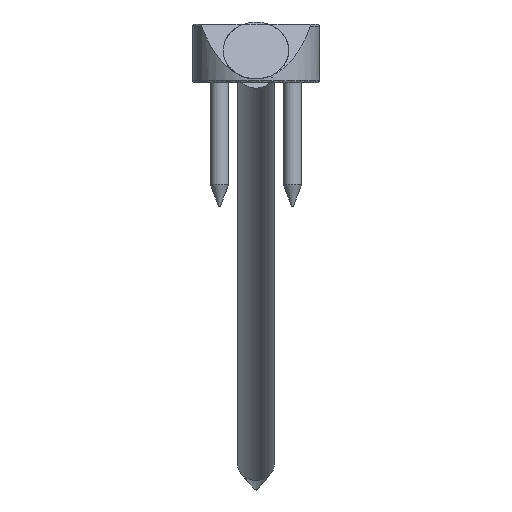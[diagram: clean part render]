
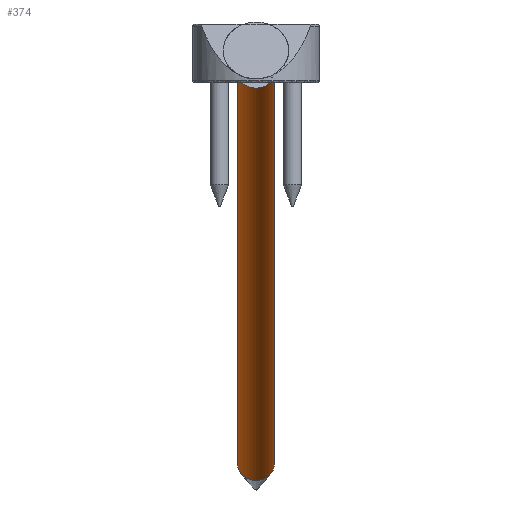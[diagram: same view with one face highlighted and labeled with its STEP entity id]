
A CAD part, front view. The second image highlights one B-rep face of the part: STEP entity #374.
In plain terms, the highlighted cylindrical face has radius 5 mm (diameter 10 mm), a full revolution.
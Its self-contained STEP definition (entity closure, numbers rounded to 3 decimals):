
#59=CYLINDRICAL_SURFACE('',#464,5.);
#132=ORIENTED_EDGE('',*,*,#169,.T.);
#133=ORIENTED_EDGE('',*,*,#168,.F.);
#168=EDGE_CURVE('',#199,#199,#226,.T.);
#169=EDGE_CURVE('',#200,#200,#227,.T.);
#199=VERTEX_POINT('',#700);
#200=VERTEX_POINT('',#703);
#226=CIRCLE('',#463,5.);
#227=CIRCLE('',#465,5.);
#279=EDGE_LOOP('',(#132));
#280=EDGE_LOOP('',(#133));
#334=FACE_BOUND('',#279,.T.);
#335=FACE_BOUND('',#280,.T.);
#374=ADVANCED_FACE('',(#334,#335),#59,.T.);
#463=AXIS2_PLACEMENT_3D('',#699,#584,#585);
#464=AXIS2_PLACEMENT_3D('',#701,#586,#587);
#465=AXIS2_PLACEMENT_3D('',#702,#588,#589);
#584=DIRECTION('',(0.,1.,0.));
#585=DIRECTION('',(0.,0.,1.));
#586=DIRECTION('',(0.,1.,0.));
#587=DIRECTION('',(0.,0.,1.));
#588=DIRECTION('',(0.,1.,0.));
#589=DIRECTION('',(0.,0.,1.));
#699=CARTESIAN_POINT('',(0.,42.,0.));
#700=CARTESIAN_POINT('',(0.,42.,5.));
#701=CARTESIAN_POINT('',(0.,54.,0.));
#702=CARTESIAN_POINT('',(0.,-173.,0.));
#703=CARTESIAN_POINT('',(0.,-173.,5.));
